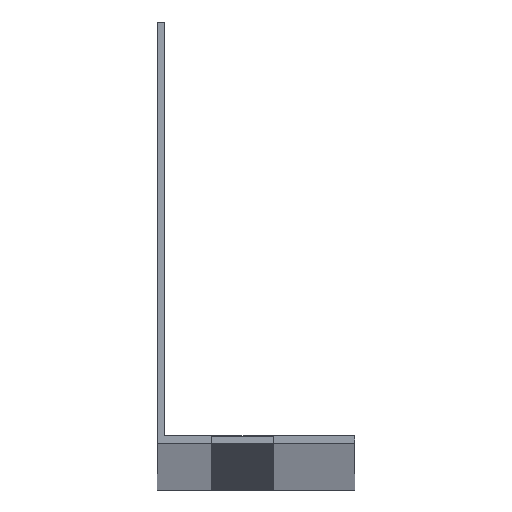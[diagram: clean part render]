
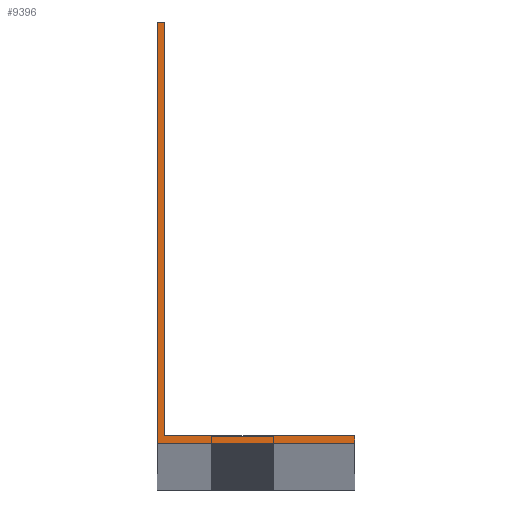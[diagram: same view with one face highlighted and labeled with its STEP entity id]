
A CAD part, top view. The second image highlights one B-rep face of the part: STEP entity #9396.
In plain terms, the highlighted planar face has unit normal (0, 0, 1).
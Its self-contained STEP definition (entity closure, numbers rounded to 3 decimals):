
#80 = EDGE_CURVE ( 'NONE', #2099, #2884, #2700, .T. ) ;
#416 = CARTESIAN_POINT ( 'NONE',  ( 0., 47., 1500. ) ) ;
#459 = EDGE_CURVE ( 'NONE', #542, #7514, #5181, .T. ) ;
#542 = VERTEX_POINT ( 'NONE', #8330 ) ;
#544 = DIRECTION ( 'NONE',  ( 0., 0., -1. ) ) ;
#1120 = CARTESIAN_POINT ( 'NONE',  ( 0.8, 47., 1500. ) ) ;
#1429 = CARTESIAN_POINT ( 'NONE',  ( 0., 0.8, 1500. ) ) ;
#1703 = CARTESIAN_POINT ( 'NONE',  ( 22., 0.8, 1500. ) ) ;
#1920 = EDGE_LOOP ( 'NONE', ( #4569, #7062, #4538, #4399, #3820, #4389 ) ) ;
#1965 = CARTESIAN_POINT ( 'NONE',  ( 0., 0., 1500. ) ) ;
#2059 = CARTESIAN_POINT ( 'NONE',  ( 0., 47., 1500. ) ) ;
#2099 = VERTEX_POINT ( 'NONE', #1120 ) ;
#2463 = DIRECTION ( 'NONE',  ( 0., -1., 0. ) ) ;
#2656 = CARTESIAN_POINT ( 'NONE',  ( 22., 0., 1500. ) ) ;
#2700 = LINE ( 'NONE', #416, #3658 ) ;
#2723 = PLANE ( 'NONE',  #8987 ) ;
#2884 = VERTEX_POINT ( 'NONE', #2059 ) ;
#3403 = LINE ( 'NONE', #6491, #8763 ) ;
#3658 = VECTOR ( 'NONE', #5291, 1000. ) ;
#3687 = VECTOR ( 'NONE', #2463, 1000. ) ;
#3820 = ORIENTED_EDGE ( 'NONE', *, *, #459, .T. ) ;
#4127 = EDGE_CURVE ( 'NONE', #10045, #7514, #4663, .T. ) ;
#4251 = VECTOR ( 'NONE', #6859, 1000. ) ;
#4389 = ORIENTED_EDGE ( 'NONE', *, *, #4127, .F. ) ;
#4399 = ORIENTED_EDGE ( 'NONE', *, *, #5055, .T. ) ;
#4538 = ORIENTED_EDGE ( 'NONE', *, *, #7242, .T. ) ;
#4569 = ORIENTED_EDGE ( 'NONE', *, *, #6243, .F. ) ;
#4663 = LINE ( 'NONE', #1429, #4251 ) ;
#4783 = CARTESIAN_POINT ( 'NONE',  ( 0., 0., 1500. ) ) ;
#5055 = EDGE_CURVE ( 'NONE', #6903, #542, #6162, .T. ) ;
#5181 = LINE ( 'NONE', #2656, #5858 ) ;
#5291 = DIRECTION ( 'NONE',  ( -1., 0., 0. ) ) ;
#5807 = FACE_OUTER_BOUND ( 'NONE', #1920, .T. ) ;
#5858 = VECTOR ( 'NONE', #5945, 1000. ) ;
#5945 = DIRECTION ( 'NONE',  ( 0., 1., 0. ) ) ;
#6162 = LINE ( 'NONE', #4783, #7401 ) ;
#6243 = EDGE_CURVE ( 'NONE', #2099, #10045, #6262, .T. ) ;
#6262 = LINE ( 'NONE', #8508, #3687 ) ;
#6394 = DIRECTION ( 'NONE',  ( 0., -1., 0. ) ) ;
#6491 = CARTESIAN_POINT ( 'NONE',  ( 0., 0., 1500. ) ) ;
#6859 = DIRECTION ( 'NONE',  ( 1., 0., 0. ) ) ;
#6903 = VERTEX_POINT ( 'NONE', #7983 ) ;
#7062 = ORIENTED_EDGE ( 'NONE', *, *, #80, .T. ) ;
#7242 = EDGE_CURVE ( 'NONE', #2884, #6903, #3403, .T. ) ;
#7401 = VECTOR ( 'NONE', #10031, 1000. ) ;
#7514 = VERTEX_POINT ( 'NONE', #1703 ) ;
#7553 = CARTESIAN_POINT ( 'NONE',  ( 0.8, 0.8, 1500. ) ) ;
#7983 = CARTESIAN_POINT ( 'NONE',  ( 0., 0., 1500. ) ) ;
#8153 = DIRECTION ( 'NONE',  ( -1., 0., 0. ) ) ;
#8330 = CARTESIAN_POINT ( 'NONE',  ( 22., 0., 1500. ) ) ;
#8508 = CARTESIAN_POINT ( 'NONE',  ( 0.8, 0., 1500. ) ) ;
#8763 = VECTOR ( 'NONE', #6394, 1000. ) ;
#8987 = AXIS2_PLACEMENT_3D ( 'NONE', #1965, #544, #8153 ) ;
#9396 = ADVANCED_FACE ( 'NONE', ( #5807 ), #2723, .F. ) ;
#10031 = DIRECTION ( 'NONE',  ( 1., 0., 0. ) ) ;
#10045 = VERTEX_POINT ( 'NONE', #7553 ) ;
